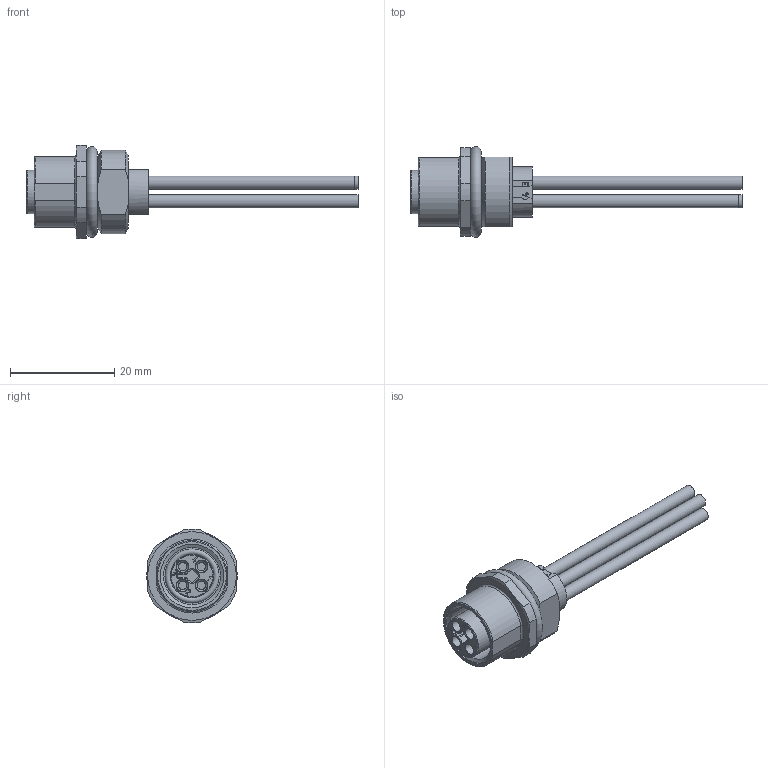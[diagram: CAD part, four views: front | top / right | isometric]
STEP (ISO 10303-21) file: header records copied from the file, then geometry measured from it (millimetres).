
FILE_DESCRIPTION(/* description */ (''),/* implementation_level */ '2;1');
FILE_NAME(/* name */ '09_0632_700_04_001_04.stp',/* time_stamp */ '2017-01-26T10:37:29+01:00',/* author */ (''),/* organization */ (''),/* preprocessor_version */ 'ST-DEVELOPER v14',/* originating_system */ 'SIEMENS PLM Software NX 8.0',/* authorisation */ '');
FILE_SCHEMA (('AUTOMOTIVE_DESIGN { 1 0 10303 214 3 1 1 1 }'));
Length unit declared in the file: millimetre
Products named in the file (1): cerl09149CA8dlhh
Bounding box: 63.7 x 17.4 x 17.96 mm (x, y, z)
Volume: 3666.7 mm3; surface area: 4232.7 mm2
Topology: 1 solids, 3 shells, 284 faces, 717 edges, 465 vertices
Faces by surface type: plane 129, cylinder 74, extrusion 32, torus 27, cone 19, bspline 3
Full cylindrical faces by diameter (mm): 1.6 x4, 2.25 x4, 2.35 x4, 2.5 x4, 8.3 x2, 10.917 x1, 11 x1, 12.2 x1, 13.3 x2
Entity records: 9169 total; most frequent: CARTESIAN_POINT 2618, ORIENTED_EDGE 1298, DIRECTION 1298, EDGE_CURVE 649, AXIS2_PLACEMENT_3D 465, VERTEX_POINT 439, VECTOR 368, EDGE_LOOP 356
